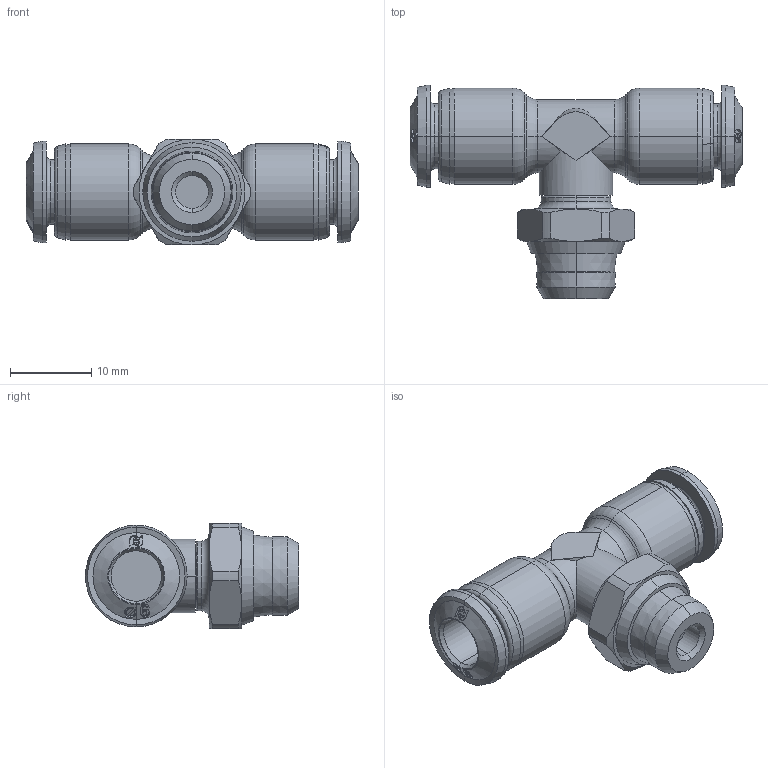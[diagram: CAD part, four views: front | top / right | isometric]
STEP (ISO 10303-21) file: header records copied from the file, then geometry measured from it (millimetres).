
FILE_DESCRIPTION (( 'STEP AP214' ), '1' );
FILE_NAME ('5521100004.step', '2012-10-02T17:39:07', ( '' ), ( '' ), 'SwSTEP 2.0', 'SolidWorks 2012', '' );
FILE_SCHEMA (( 'AUTOMOTIVE_DESIGN' ));
Length unit declared in the file: millimetre
Products named in the file (1): 5521100004
Bounding box: 40.8 x 26.2 x 13 mm (x, y, z)
Volume: 4781.5 mm3; surface area: 2898.5 mm2
Topology: 1 solids, 1 shells, 275 faces, 656 edges, 408 vertices
Faces by surface type: bspline 94, cone 84, plane 36, cylinder 35, torus 26
Entity records: 16995 total; most frequent: CARTESIAN_POINT 8424, ORIENTED_EDGE 1312, DIRECTION 856, EDGE_CURVE 656, VERTEX_POINT 408, AXIS2_PLACEMENT_3D 370, B_SPLINE_CURVE_WITH_KNOTS 336, EDGE_LOOP 300
